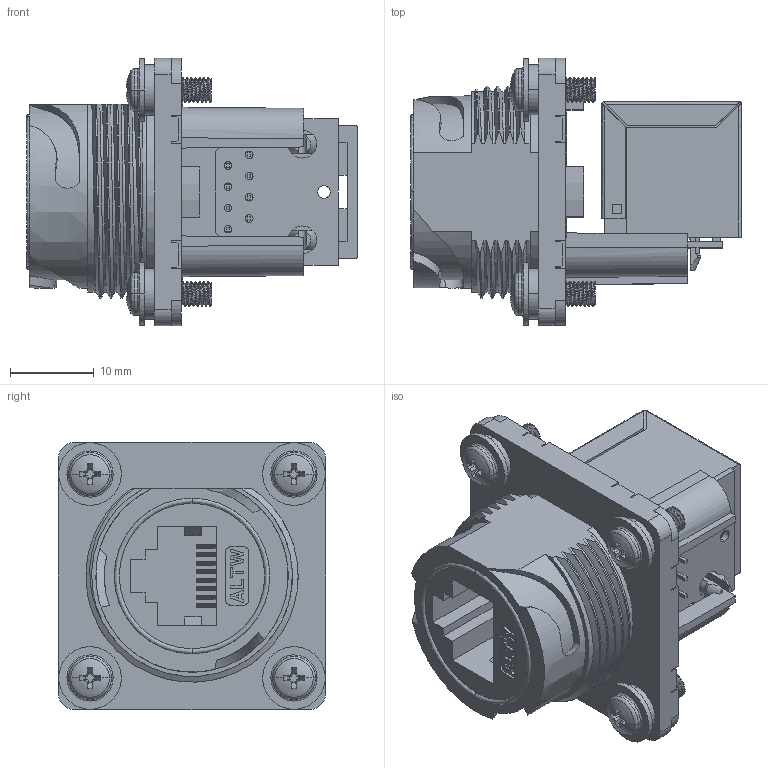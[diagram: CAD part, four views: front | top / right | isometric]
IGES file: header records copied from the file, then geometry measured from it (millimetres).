
Start section:  PTC IGES file: RDP-5SPFFV-TSM7001.igs
Global section: file name: RDP-5SPFFV-TSM7001.igs; native system: Creo Parametric by Parametric Technology Corporation; preprocessor: 2013050; author: LT0842; organization: Unknown; date: 20140811.144537; units: millimetre
Bounding box: 39.6 x 32 x 32 mm (x, y, z)
Volume: 12206.8 mm3; surface area: 9564.6 mm2
Topology: 1 solids, 1 shells, 981 faces, 2727 edges, 1780 vertices
Faces by surface type: bspline 641, revolution 340
